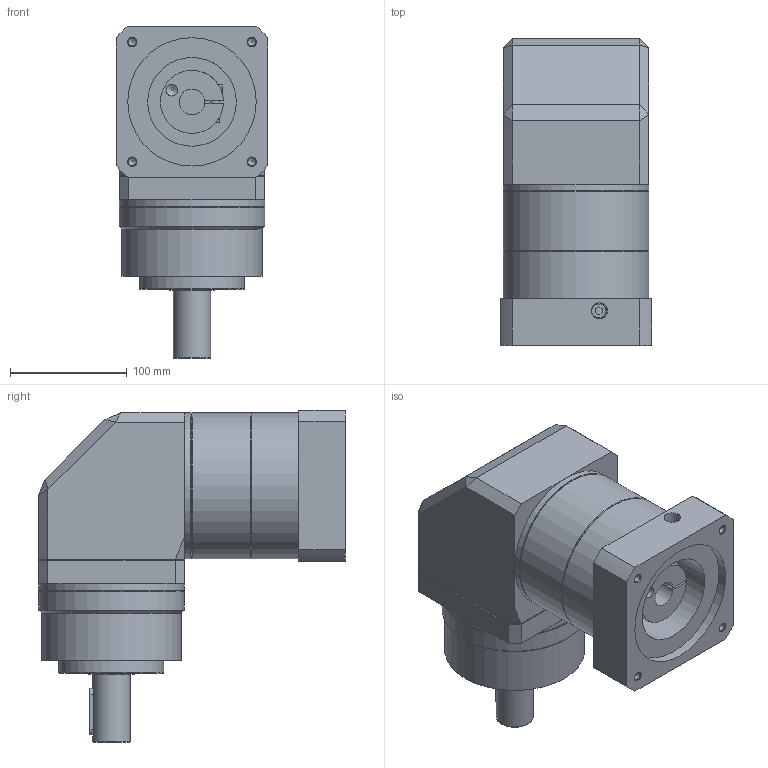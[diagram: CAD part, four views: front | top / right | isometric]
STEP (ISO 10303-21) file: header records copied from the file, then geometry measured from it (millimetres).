
FILE_DESCRIPTION(/* description */ ('STEP AP214'),/* implementation_level */ '2;1');
FILE_NAME(/* name */ 'C:\Users\m039\Desktop\精密行星标准图2019.5.20\行星外形图\B版精密行星外形图3D\GER\GER120-(3-100) 外形图-∅22x73.5-∅110x8-∅145xM8-□130.stp',/* time_stamp */ '2021-12-17T13:20:33+08:00',/* author */ ('m039'),/* organization */ ('Î¢ÈíÖÐ¹ú'),/* preprocessor_version */ 'ST-DEVELOPER v17.2',/* originating_system */ 'Autodesk Inventor 2019',/* authorisation */ '');
FILE_SCHEMA (('AUTOMOTIVE_DESIGN { 1 0 10303 214 3 1 1 }'));
Length unit declared in the file: millimetre
Products named in the file (1): GER120
Bounding box: 130 x 263 x 284.5 mm (x, y, z)
Volume: 4433421.4 mm3; surface area: 237589.6 mm2
Topology: 1 solids, 1 shells, 151 faces, 394 edges, 258 vertices
Faces by surface type: plane 86, cylinder 35, cone 25, torus 5
Full cylindrical faces by diameter (mm): 6.8 x8, 8 x1, 10 x1, 10.2 x1, 13 x1, 14 x1, 22 x1, 32 x1, 39.5 x1, 40 x1, 76 x1, 90 x1, 110 x1, 120 x1, 125 x5
Entity records: 4772 total; most frequent: CARTESIAN_POINT 902, DIRECTION 843, ORIENTED_EDGE 768, EDGE_CURVE 384, AXIS2_PLACEMENT_3D 313, VERTEX_POINT 258, LINE 217, VECTOR 217
